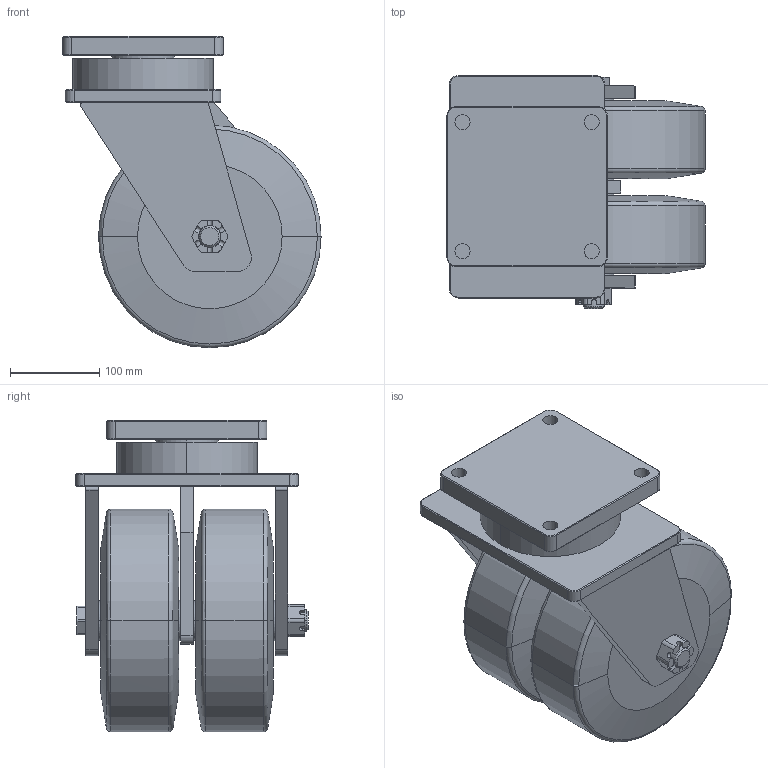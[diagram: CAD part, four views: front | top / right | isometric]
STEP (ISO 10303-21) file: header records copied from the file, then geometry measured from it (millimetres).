
FILE_DESCRIPTION(/* description */ (''),/* implementation_level */ '2;1');
FILE_NAME(/* name */ '40B05_10_F.stp',/* time_stamp */ '2022-08-29T10:49:21+08:00',/* author */ (''),/* organization */ (''),/* preprocessor_version */ 'ST-DEVELOPER v14',/* originating_system */ 'SIEMENS PLM Software NX 8.0',/* authorisation */ '');
FILE_SCHEMA (('AUTOMOTIVE_DESIGN { 1 0 10303 214 3 1 1 1 }'));
Length unit declared in the file: millimetre
Products named in the file (1): 40B05_10_F
Bounding box: 290 x 261.5 x 350 mm (x, y, z)
Volume: 10958108.9 mm3; surface area: 629742.5 mm2
Topology: 1 solids, 1 shells, 388 faces, 1035 edges, 684 vertices
Faces by surface type: plane 251, cylinder 103, cone 26, torus 8
Entity records: 12627 total; most frequent: CARTESIAN_POINT 3122, ORIENTED_EDGE 2070, DIRECTION 1831, EDGE_CURVE 1035, VERTEX_POINT 684, AXIS2_PLACEMENT_3D 659, LINE 513, VECTOR 513
